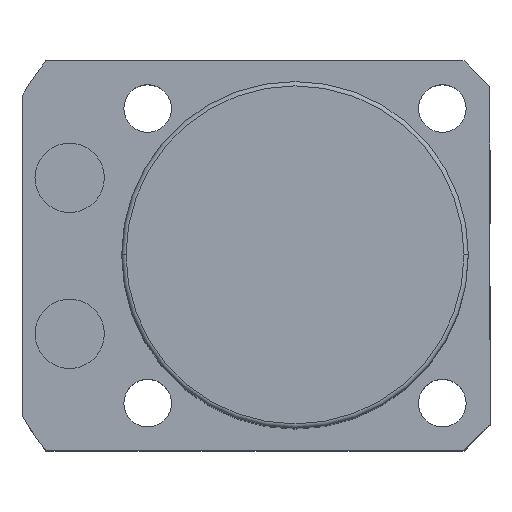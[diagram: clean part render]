
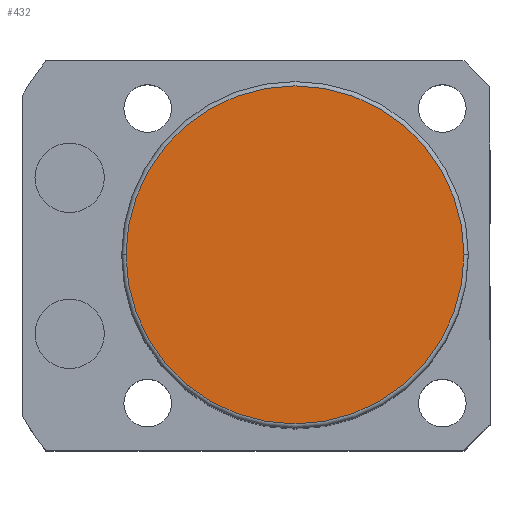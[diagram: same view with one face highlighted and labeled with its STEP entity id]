
A CAD part, top view. The second image highlights one B-rep face of the part: STEP entity #432.
In plain terms, the highlighted planar face has unit normal (0, 0, 1).
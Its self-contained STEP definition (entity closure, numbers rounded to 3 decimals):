
#64 = CARTESIAN_POINT ( 'NONE',  ( 0., 0., 73.5 ) ) ;
#129 = DIRECTION ( 'NONE',  ( 0., 0., 1. ) ) ;
#202 = FACE_OUTER_BOUND ( 'NONE', #2555, .T. ) ;
#257 = EDGE_CURVE ( 'NONE', #1415, #2019, #1490, .T. ) ;
#314 = DIRECTION ( 'NONE',  ( 0., 0., 1. ) ) ;
#338 = AXIS2_PLACEMENT_3D ( 'NONE', #1359, #129, #2184 ) ;
#343 = CARTESIAN_POINT ( 'NONE',  ( 19.5, 0., 73.5 ) ) ;
#432 = ADVANCED_FACE ( 'NONE', ( #202 ), #713, .T. ) ;
#621 = CARTESIAN_POINT ( 'NONE',  ( -19.5, 0., 73.5 ) ) ;
#688 = AXIS2_PLACEMENT_3D ( 'NONE', #64, #2549, #1899 ) ;
#713 = PLANE ( 'NONE',  #338 ) ;
#720 = CARTESIAN_POINT ( 'NONE',  ( 0., 0., 73.5 ) ) ;
#756 = DIRECTION ( 'NONE',  ( 1., 0., 0. ) ) ;
#1139 = AXIS2_PLACEMENT_3D ( 'NONE', #720, #314, #756 ) ;
#1359 = CARTESIAN_POINT ( 'NONE',  ( 0., 0., 73.5 ) ) ;
#1373 = ORIENTED_EDGE ( 'NONE', *, *, #257, .T. ) ;
#1415 = VERTEX_POINT ( 'NONE', #343 ) ;
#1490 = CIRCLE ( 'NONE', #1139, 19.5 ) ;
#1513 = ORIENTED_EDGE ( 'NONE', *, *, #1631, .T. ) ;
#1631 = EDGE_CURVE ( 'NONE', #2019, #1415, #1932, .T. ) ;
#1899 = DIRECTION ( 'NONE',  ( 1., 0., 0. ) ) ;
#1932 = CIRCLE ( 'NONE', #688, 19.5 ) ;
#2019 = VERTEX_POINT ( 'NONE', #621 ) ;
#2184 = DIRECTION ( 'NONE',  ( 1., 0., 0. ) ) ;
#2549 = DIRECTION ( 'NONE',  ( 0., 0., 1. ) ) ;
#2555 = EDGE_LOOP ( 'NONE', ( #1373, #1513 ) ) ;
